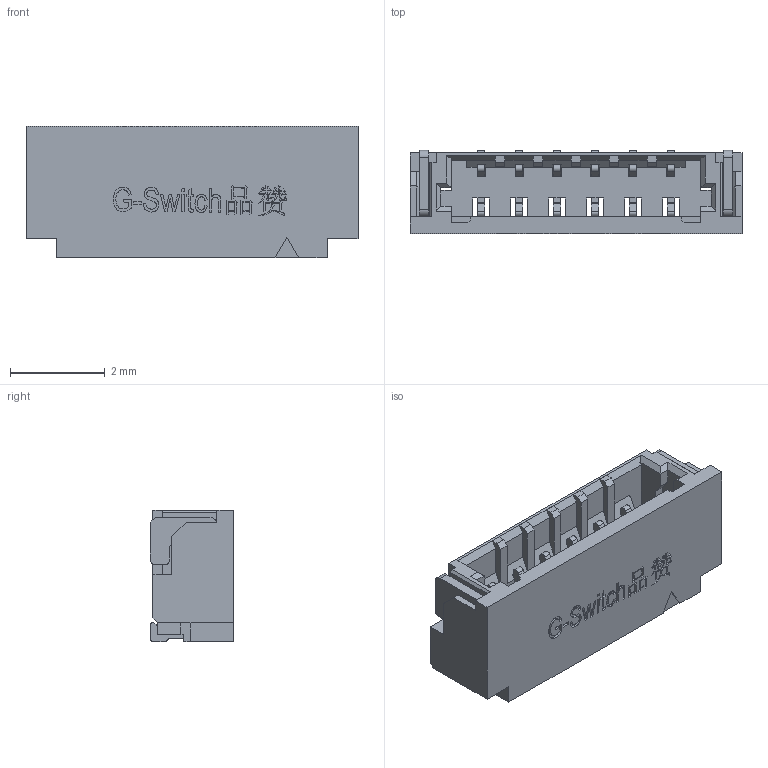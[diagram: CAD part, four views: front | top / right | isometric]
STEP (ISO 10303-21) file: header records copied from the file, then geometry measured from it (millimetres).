
FILE_DESCRIPTION (( 'STEP AP203' ), '1' );
FILE_NAME ('GT-A0801WRS-106SBT01.STEP', '2024-09-25T09:27:34', ( '' ), ( '' ), 'SwSTEP 2.0', 'SolidWorks 2020', '' );
FILE_SCHEMA (( 'CONFIG_CONTROL_DESIGN' ));
Length unit declared in the file: millimetre
Products named in the file (1): GT-A0801WRS-106SBT01
Bounding box: 7 x 1.75 x 2.77 mm (x, y, z)
Volume: 18.6 mm3; surface area: 152.1 mm2
Topology: 9 solids, 9 shells, 820 faces, 2369 edges, 1558 vertices
Faces by surface type: plane 625, bspline 173, cylinder 22
Entity records: 34930 total; most frequent: CARTESIAN_POINT 14827, ORIENTED_EDGE 4738, DIRECTION 3169, EDGE_CURVE 2369, LINE 1785, VECTOR 1785, VERTEX_POINT 1558, EDGE_LOOP 843
